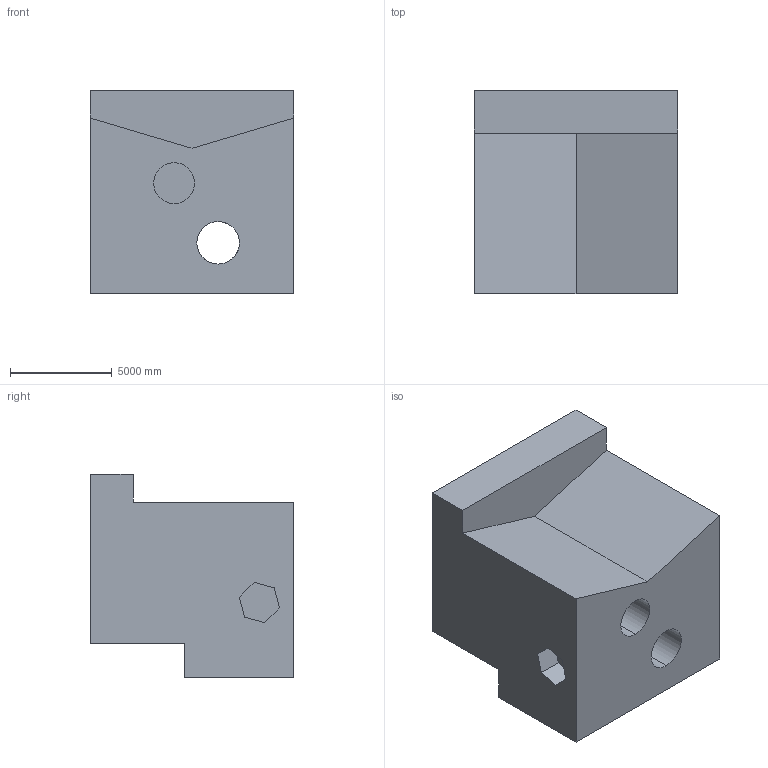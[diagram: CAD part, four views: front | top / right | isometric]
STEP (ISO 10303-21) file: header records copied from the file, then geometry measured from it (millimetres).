
FILE_DESCRIPTION (( 'STEP AP203' ), '1' );
FILE_NAME ('358.STEP', '2022-09-07T13:09:42', ( 'user' ), ( '' ), 'SwSTEP 2.0', 'SolidWorks 2021', '' );
FILE_SCHEMA (( 'CONFIG_CONTROL_DESIGN' ));
Length unit declared in the file: centimetre
Products named in the file (1): 358
Bounding box: 10000 x 10000 x 10000 mm (x, y, z)
Volume: 672592871329.8 mm3; surface area: 642709095.1 mm2
Topology: 1 solids, 1 shells, 36 faces, 99 edges, 66 vertices
Faces by surface type: plane 30, cylinder 6
Entity records: 1218 total; most frequent: CARTESIAN_POINT 202, ORIENTED_EDGE 198, DIRECTION 187, EDGE_CURVE 99, VECTOR 85, LINE 85, VERTEX_POINT 66, AXIS2_PLACEMENT_3D 51
